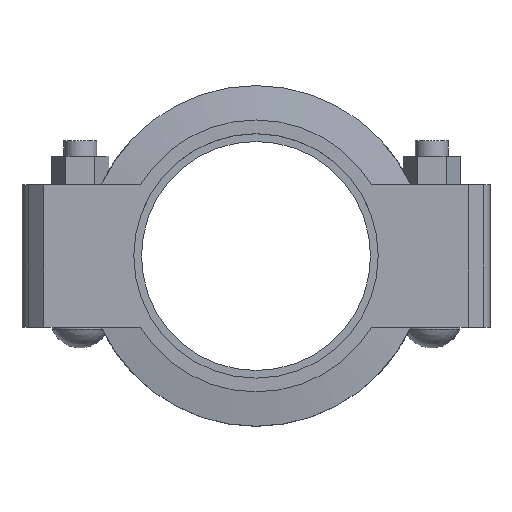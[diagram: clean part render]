
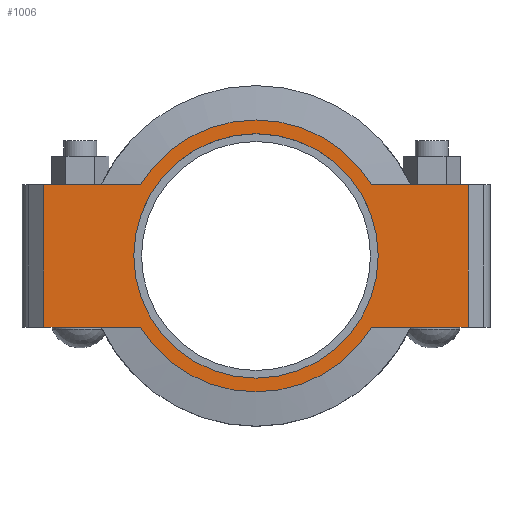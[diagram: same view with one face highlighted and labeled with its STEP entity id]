
A CAD part, top view. The second image highlights one B-rep face of the part: STEP entity #1006.
In plain terms, the highlighted planar face has unit normal (0, 0, 1).
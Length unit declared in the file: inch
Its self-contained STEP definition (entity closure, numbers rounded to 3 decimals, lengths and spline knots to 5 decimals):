
#68=FACE_BOUND('',#382,.T.);
#96=PLANE('',#1104);
#149=LINE('',#1570,#232);
#164=LINE('',#1629,#247);
#172=LINE('',#1659,#255);
#174=LINE('',#1662,#257);
#175=LINE('',#1667,#258);
#176=LINE('',#1668,#259);
#232=VECTOR('',#1283,0.3937);
#247=VECTOR('',#1318,0.3937);
#255=VECTOR('',#1338,0.3937);
#257=VECTOR('',#1342,0.3937);
#258=VECTOR('',#1347,0.3937);
#259=VECTOR('',#1348,0.3937);
#321=FACE_OUTER_BOUND('',#381,.T.);
#381=EDGE_LOOP('',(#824,#825,#826,#827,#828,#829,#830,#831));
#382=EDGE_LOOP('',(#832));
#407=CIRCLE('',#1055,2.7815);
#425=CIRCLE('',#1105,3.09375);
#426=CIRCLE('',#1106,3.09375);
#442=VERTEX_POINT('',#1452);
#479=VERTEX_POINT('',#1567);
#480=VERTEX_POINT('',#1569);
#501=VERTEX_POINT('',#1624);
#502=VERTEX_POINT('',#1628);
#511=VERTEX_POINT('',#1654);
#512=VERTEX_POINT('',#1658);
#513=VERTEX_POINT('',#1664);
#514=VERTEX_POINT('',#1666);
#531=EDGE_CURVE('',#442,#442,#407,.T.);
#586=EDGE_CURVE('',#480,#479,#149,.T.);
#611=EDGE_CURVE('',#502,#501,#164,.T.);
#624=EDGE_CURVE('',#512,#511,#172,.T.);
#626=EDGE_CURVE('',#512,#479,#174,.T.);
#627=EDGE_CURVE('',#511,#513,#425,.T.);
#628=EDGE_CURVE('',#513,#514,#175,.T.);
#629=EDGE_CURVE('',#502,#514,#176,.T.);
#630=EDGE_CURVE('',#501,#480,#426,.T.);
#824=ORIENTED_EDGE('',*,*,#626,.F.);
#825=ORIENTED_EDGE('',*,*,#624,.T.);
#826=ORIENTED_EDGE('',*,*,#627,.T.);
#827=ORIENTED_EDGE('',*,*,#628,.T.);
#828=ORIENTED_EDGE('',*,*,#629,.F.);
#829=ORIENTED_EDGE('',*,*,#611,.T.);
#830=ORIENTED_EDGE('',*,*,#630,.T.);
#831=ORIENTED_EDGE('',*,*,#586,.T.);
#832=ORIENTED_EDGE('',*,*,#531,.T.);
#1006=ADVANCED_FACE('',(#321,#68),#96,.T.);
#1055=AXIS2_PLACEMENT_3D('',#1454,#1173,#1174);
#1104=AXIS2_PLACEMENT_3D('',#1663,#1343,#1344);
#1105=AXIS2_PLACEMENT_3D('',#1665,#1345,#1346);
#1106=AXIS2_PLACEMENT_3D('',#1669,#1349,#1350);
#1173=DIRECTION('center_axis',(0.,0.,-1.));
#1174=DIRECTION('ref_axis',(1.,0.,0.));
#1283=DIRECTION('',(1.,0.,0.));
#1318=DIRECTION('',(1.,0.,0.));
#1338=DIRECTION('',(-1.,0.,0.));
#1342=DIRECTION('',(0.,-1.,0.));
#1343=DIRECTION('center_axis',(0.,0.,1.));
#1344=DIRECTION('ref_axis',(-1.,0.,0.));
#1345=DIRECTION('center_axis',(0.,0.,1.));
#1346=DIRECTION('ref_axis',(1.,0.,0.));
#1347=DIRECTION('',(-1.,0.,0.));
#1348=DIRECTION('',(0.,1.,0.));
#1349=DIRECTION('center_axis',(0.,0.,1.));
#1350=DIRECTION('ref_axis',(1.,0.,0.));
#1452=CARTESIAN_POINT('',(-2.7815,0.,1.065));
#1454=CARTESIAN_POINT('Origin',(0.,0.,1.065));
#1567=CARTESIAN_POINT('',(4.825,-1.625,1.065));
#1569=CARTESIAN_POINT('',(2.63262,-1.625,1.065));
#1570=CARTESIAN_POINT('',(-5.325,-1.625,1.065));
#1624=CARTESIAN_POINT('',(-2.63262,-1.625,1.065));
#1628=CARTESIAN_POINT('',(-4.825,-1.625,1.065));
#1629=CARTESIAN_POINT('',(-5.325,-1.625,1.065));
#1654=CARTESIAN_POINT('',(2.63262,1.625,1.065));
#1658=CARTESIAN_POINT('',(4.825,1.625,1.065));
#1659=CARTESIAN_POINT('',(5.325,1.625,1.065));
#1662=CARTESIAN_POINT('',(4.825,-0.8125,1.065));
#1663=CARTESIAN_POINT('Origin',(0.,0.,
1.065));
#1664=CARTESIAN_POINT('',(-2.63262,1.625,1.065));
#1665=CARTESIAN_POINT('Origin',(0.,0.,1.065));
#1666=CARTESIAN_POINT('',(-4.825,1.625,1.065));
#1667=CARTESIAN_POINT('',(5.325,1.625,1.065));
#1668=CARTESIAN_POINT('',(-4.825,0.8125,1.065));
#1669=CARTESIAN_POINT('Origin',(0.,0.,1.065));
